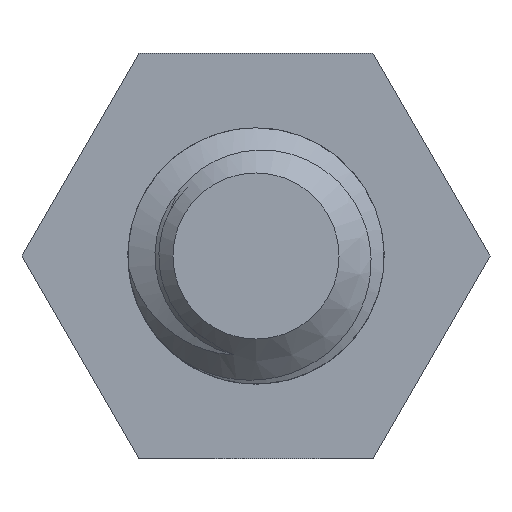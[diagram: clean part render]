
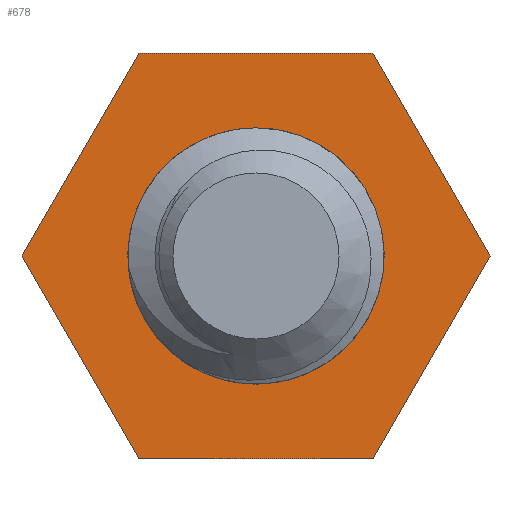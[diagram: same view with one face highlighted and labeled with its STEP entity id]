
A CAD part, front view. The second image highlights one B-rep face of the part: STEP entity #678.
In plain terms, the highlighted planar face has unit normal (0, -1, 0).
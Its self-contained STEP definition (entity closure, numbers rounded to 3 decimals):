
#52 = CARTESIAN_POINT ( 'NONE',  ( -1.299, 0., -2.25 ) ) ;
#69 = VERTEX_POINT ( 'NONE', #1538 ) ;
#97 = LINE ( 'NONE', #1622, #1811 ) ;
#122 = CARTESIAN_POINT ( 'NONE',  ( 0., 0., 1.422 ) ) ;
#254 = EDGE_LOOP ( 'NONE', ( #1623 ) ) ;
#325 = CARTESIAN_POINT ( 'NONE',  ( 1.299, 0., 2.25 ) ) ;
#346 = PLANE ( 'NONE',  #575 ) ;
#355 = ORIENTED_EDGE ( 'NONE', *, *, #460, .F. ) ;
#414 = VERTEX_POINT ( 'NONE', #122 ) ;
#429 = DIRECTION ( 'NONE',  ( -1., 0., 0. ) ) ;
#460 = EDGE_CURVE ( 'NONE', #864, #824, #97, .T. ) ;
#482 = DIRECTION ( 'NONE',  ( 0., 1., 0. ) ) ;
#498 = VERTEX_POINT ( 'NONE', #1925 ) ;
#509 = EDGE_LOOP ( 'NONE', ( #1641, #1412, #1716, #918, #802, #355 ) ) ;
#521 = FACE_OUTER_BOUND ( 'NONE', #509, .T. ) ;
#529 = EDGE_CURVE ( 'NONE', #1378, #864, #843, .T. ) ;
#575 = AXIS2_PLACEMENT_3D ( 'NONE', #1742, #816, #1264 ) ;
#596 = AXIS2_PLACEMENT_3D ( 'NONE', #1590, #482, #624 ) ;
#597 = CARTESIAN_POINT ( 'NONE',  ( 2.598, 0., 0. ) ) ;
#624 = DIRECTION ( 'NONE',  ( 0., 0., 1. ) ) ;
#678 = ADVANCED_FACE ( 'NONE', ( #826, #521 ), #346, .F. ) ;
#691 = DIRECTION ( 'NONE',  ( 1., 0., 0. ) ) ;
#736 = EDGE_CURVE ( 'NONE', #498, #1378, #989, .T. ) ;
#795 = CARTESIAN_POINT ( 'NONE',  ( -1.299, 0., 2.25 ) ) ;
#802 = ORIENTED_EDGE ( 'NONE', *, *, #1466, .F. ) ;
#816 = DIRECTION ( 'NONE',  ( 0., 1., 0. ) ) ;
#824 = VERTEX_POINT ( 'NONE', #1307 ) ;
#826 = FACE_BOUND ( 'NONE', #254, .T. ) ;
#835 = VECTOR ( 'NONE', #1719, 1000. ) ;
#843 = LINE ( 'NONE', #1023, #1194 ) ;
#864 = VERTEX_POINT ( 'NONE', #325 ) ;
#868 = CARTESIAN_POINT ( 'NONE',  ( 1.299, 0., -2.25 ) ) ;
#918 = ORIENTED_EDGE ( 'NONE', *, *, #1692, .F. ) ;
#989 = LINE ( 'NONE', #1448, #835 ) ;
#991 = DIRECTION ( 'NONE',  ( -0.5, 0., 0.866 ) ) ;
#1023 = CARTESIAN_POINT ( 'NONE',  ( -1.299, 0., 2.25 ) ) ;
#1025 = LINE ( 'NONE', #597, #1957 ) ;
#1116 = CIRCLE ( 'NONE', #596, 1.422 ) ;
#1172 = VECTOR ( 'NONE', #991, 1000. ) ;
#1191 = EDGE_CURVE ( 'NONE', #69, #498, #1777, .T. ) ;
#1194 = VECTOR ( 'NONE', #691, 1000. ) ;
#1264 = DIRECTION ( 'NONE',  ( 0., 0., 1. ) ) ;
#1307 = CARTESIAN_POINT ( 'NONE',  ( 2.598, 0., 0. ) ) ;
#1353 = DIRECTION ( 'NONE',  ( -0.5, 0., -0.866 ) ) ;
#1378 = VERTEX_POINT ( 'NONE', #795 ) ;
#1412 = ORIENTED_EDGE ( 'NONE', *, *, #736, .F. ) ;
#1448 = CARTESIAN_POINT ( 'NONE',  ( -2.598, 0., 0. ) ) ;
#1466 = EDGE_CURVE ( 'NONE', #824, #1633, #1025, .T. ) ;
#1498 = VECTOR ( 'NONE', #429, 1000. ) ;
#1538 = CARTESIAN_POINT ( 'NONE',  ( -1.299, 0., -2.25 ) ) ;
#1590 = CARTESIAN_POINT ( 'NONE',  ( 0., 0., 0. ) ) ;
#1622 = CARTESIAN_POINT ( 'NONE',  ( 1.299, 0., 2.25 ) ) ;
#1623 = ORIENTED_EDGE ( 'NONE', *, *, #1763, .T. ) ;
#1633 = VERTEX_POINT ( 'NONE', #1637 ) ;
#1637 = CARTESIAN_POINT ( 'NONE',  ( 1.299, 0., -2.25 ) ) ;
#1641 = ORIENTED_EDGE ( 'NONE', *, *, #529, .F. ) ;
#1692 = EDGE_CURVE ( 'NONE', #1633, #69, #1789, .T. ) ;
#1716 = ORIENTED_EDGE ( 'NONE', *, *, #1191, .F. ) ;
#1719 = DIRECTION ( 'NONE',  ( 0.5, 0., 0.866 ) ) ;
#1742 = CARTESIAN_POINT ( 'NONE',  ( 0., 0., 0. ) ) ;
#1763 = EDGE_CURVE ( 'NONE', #414, #414, #1116, .T. ) ;
#1777 = LINE ( 'NONE', #52, #1172 ) ;
#1789 = LINE ( 'NONE', #868, #1498 ) ;
#1801 = DIRECTION ( 'NONE',  ( 0.5, 0., -0.866 ) ) ;
#1811 = VECTOR ( 'NONE', #1801, 1000. ) ;
#1925 = CARTESIAN_POINT ( 'NONE',  ( -2.598, 0., 0. ) ) ;
#1957 = VECTOR ( 'NONE', #1353, 1000. ) ;
